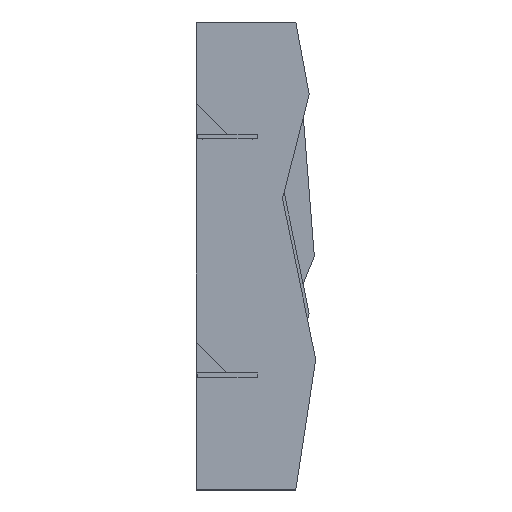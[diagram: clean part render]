
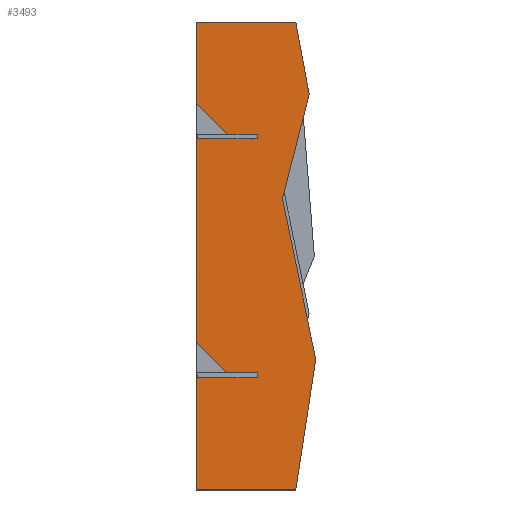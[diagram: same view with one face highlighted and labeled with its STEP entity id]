
A CAD part, left-side view. The second image highlights one B-rep face of the part: STEP entity #3493.
In plain terms, the highlighted planar face has unit normal (-1, 0, 0) as drawn and (0, 0, 1) by its records, which use the part's own axes.
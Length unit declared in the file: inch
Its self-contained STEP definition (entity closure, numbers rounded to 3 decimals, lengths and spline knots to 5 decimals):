
#233=FACE_OUTER_BOUND('',#413,.T.);
#413=EDGE_LOOP('',(#3034,#3035,#3036,#3037,#3038,#3039,#3040,#3041,#3042,
#3043,#3044,#3045,#3046,#3047,#3048,#3049,#3050,#3051,#3052,#3053,#3054));
#848=LINE('',#5520,#1328);
#850=LINE('',#5524,#1330);
#853=LINE('',#5530,#1333);
#855=LINE('',#5533,#1335);
#857=LINE('',#5538,#1337);
#860=LINE('',#5543,#1340);
#862=LINE('',#5547,#1342);
#864=LINE('',#5552,#1344);
#867=LINE('',#5557,#1347);
#868=LINE('',#5559,#1348);
#869=LINE('',#5562,#1349);
#870=LINE('',#5563,#1350);
#871=LINE('',#5565,#1351);
#872=LINE('',#5567,#1352);
#873=LINE('',#5569,#1353);
#874=LINE('',#5571,#1354);
#875=LINE('',#5573,#1355);
#876=LINE('',#5575,#1356);
#877=LINE('',#5577,#1357);
#878=LINE('',#5579,#1358);
#879=LINE('',#5580,#1359);
#1328=VECTOR('',#4519,0.3937);
#1330=VECTOR('',#4523,0.3937);
#1333=VECTOR('',#4528,0.3937);
#1335=VECTOR('',#4532,0.3937);
#1337=VECTOR('',#4536,0.3937);
#1340=VECTOR('',#4541,0.3937);
#1342=VECTOR('',#4545,0.3937);
#1344=VECTOR('',#4549,0.3937);
#1347=VECTOR('',#4554,0.3937);
#1348=VECTOR('',#4557,0.3937);
#1349=VECTOR('',#4560,0.3937);
#1350=VECTOR('',#4561,0.3937);
#1351=VECTOR('',#4562,0.3937);
#1352=VECTOR('',#4563,0.3937);
#1353=VECTOR('',#4564,0.3937);
#1354=VECTOR('',#4565,0.3937);
#1355=VECTOR('',#4566,0.3937);
#1356=VECTOR('',#4567,0.3937);
#1357=VECTOR('',#4568,0.3937);
#1358=VECTOR('',#4569,0.3937);
#1359=VECTOR('',#4570,0.3937);
#1678=VERTEX_POINT('',#5517);
#1679=VERTEX_POINT('',#5519);
#1680=VERTEX_POINT('',#5523);
#1681=VERTEX_POINT('',#5527);
#1682=VERTEX_POINT('',#5529);
#1683=VERTEX_POINT('',#5535);
#1684=VERTEX_POINT('',#5537);
#1685=VERTEX_POINT('',#5541);
#1686=VERTEX_POINT('',#5545);
#1687=VERTEX_POINT('',#5549);
#1688=VERTEX_POINT('',#5551);
#1689=VERTEX_POINT('',#5555);
#1690=VERTEX_POINT('',#5561);
#1691=VERTEX_POINT('',#5564);
#1692=VERTEX_POINT('',#5566);
#1693=VERTEX_POINT('',#5568);
#1694=VERTEX_POINT('',#5570);
#1695=VERTEX_POINT('',#5572);
#1696=VERTEX_POINT('',#5574);
#1697=VERTEX_POINT('',#5576);
#1698=VERTEX_POINT('',#5578);
#2128=EDGE_CURVE('',#1679,#1678,#848,.T.);
#2130=EDGE_CURVE('',#1680,#1679,#850,.T.);
#2133=EDGE_CURVE('',#1682,#1681,#853,.T.);
#2135=EDGE_CURVE('',#1681,#1680,#855,.T.);
#2137=EDGE_CURVE('',#1684,#1683,#857,.T.);
#2140=EDGE_CURVE('',#1683,#1685,#860,.T.);
#2142=EDGE_CURVE('',#1685,#1686,#862,.T.);
#2144=EDGE_CURVE('',#1688,#1687,#864,.T.);
#2147=EDGE_CURVE('',#1687,#1689,#867,.T.);
#2148=EDGE_CURVE('',#1689,#1684,#868,.T.);
#2149=EDGE_CURVE('',#1678,#1690,#869,.T.);
#2150=EDGE_CURVE('',#1690,#1688,#870,.T.);
#2151=EDGE_CURVE('',#1686,#1691,#871,.T.);
#2152=EDGE_CURVE('',#1691,#1692,#872,.T.);
#2153=EDGE_CURVE('',#1692,#1693,#873,.T.);
#2154=EDGE_CURVE('',#1693,#1694,#874,.T.);
#2155=EDGE_CURVE('',#1694,#1695,#875,.T.);
#2156=EDGE_CURVE('',#1695,#1696,#876,.T.);
#2157=EDGE_CURVE('',#1696,#1697,#877,.T.);
#2158=EDGE_CURVE('',#1697,#1698,#878,.T.);
#2159=EDGE_CURVE('',#1698,#1682,#879,.T.);
#3034=ORIENTED_EDGE('',*,*,#2130,.T.);
#3035=ORIENTED_EDGE('',*,*,#2128,.T.);
#3036=ORIENTED_EDGE('',*,*,#2149,.T.);
#3037=ORIENTED_EDGE('',*,*,#2150,.T.);
#3038=ORIENTED_EDGE('',*,*,#2144,.T.);
#3039=ORIENTED_EDGE('',*,*,#2147,.T.);
#3040=ORIENTED_EDGE('',*,*,#2148,.T.);
#3041=ORIENTED_EDGE('',*,*,#2137,.T.);
#3042=ORIENTED_EDGE('',*,*,#2140,.T.);
#3043=ORIENTED_EDGE('',*,*,#2142,.T.);
#3044=ORIENTED_EDGE('',*,*,#2151,.T.);
#3045=ORIENTED_EDGE('',*,*,#2152,.T.);
#3046=ORIENTED_EDGE('',*,*,#2153,.T.);
#3047=ORIENTED_EDGE('',*,*,#2154,.T.);
#3048=ORIENTED_EDGE('',*,*,#2155,.T.);
#3049=ORIENTED_EDGE('',*,*,#2156,.T.);
#3050=ORIENTED_EDGE('',*,*,#2157,.T.);
#3051=ORIENTED_EDGE('',*,*,#2158,.T.);
#3052=ORIENTED_EDGE('',*,*,#2159,.T.);
#3053=ORIENTED_EDGE('',*,*,#2133,.T.);
#3054=ORIENTED_EDGE('',*,*,#2135,.T.);
#3313=PLANE('',#3774);
#3493=ADVANCED_FACE('',(#233),#3313,.T.);
#3774=AXIS2_PLACEMENT_3D('',#5560,#4558,#4559);
#4519=DIRECTION('',(0.983,0.182,0.));
#4523=DIRECTION('',(0.969,-0.248,0.));
#4528=DIRECTION('',(0.989,-0.151,0.));
#4532=DIRECTION('',(0.979,0.203,0.));
#4536=DIRECTION('',(0.,1.,0.));
#4541=DIRECTION('',(1.,0.,0.));
#4545=DIRECTION('',(0.,1.,0.));
#4549=DIRECTION('',(-0.703,-0.711,0.));
#4554=DIRECTION('',(0.,-1.,0.));
#4557=DIRECTION('',(-1.,0.,0.));
#4558=DIRECTION('center_axis',(0.,0.,1.));
#4559=DIRECTION('ref_axis',(1.,0.,0.));
#4560=DIRECTION('',(0.,1.,0.));
#4561=DIRECTION('',(-1.,0.,0.));
#4562=DIRECTION('',(-1.,0.,0.));
#4563=DIRECTION('',(-0.703,-0.711,0.));
#4564=DIRECTION('',(0.,-1.,0.));
#4565=DIRECTION('',(-1.,0.,0.));
#4566=DIRECTION('',(0.,1.,0.));
#4567=DIRECTION('',(1.,0.,0.));
#4568=DIRECTION('',(0.,1.,0.));
#4569=DIRECTION('',(-1.,0.,0.));
#4570=DIRECTION('',(0.,-1.,0.));
#5517=CARTESIAN_POINT('',(47.,0.,0.48));
#5519=CARTESIAN_POINT('',(39.7525,-1.34505,0.48));
#5520=CARTESIAN_POINT('',(39.7525,-1.34505,0.48));
#5523=CARTESIAN_POINT('',(29.26965,1.34318,0.48));
#5524=CARTESIAN_POINT('',(29.26965,1.34318,0.48));
#5527=CARTESIAN_POINT('',(13.12739,-1.99983,0.48));
#5529=CARTESIAN_POINT('',(0.,0.,0.48));
#5530=CARTESIAN_POINT('',(0.,0.,0.48));
#5533=CARTESIAN_POINT('',(26.86655,0.84551,0.48));
#5535=CARTESIAN_POINT('',(35.25,9.375,0.48));
#5537=CARTESIAN_POINT('',(35.25,4.375,0.48));
#5538=CARTESIAN_POINT('',(35.25,7.1875,0.48));
#5541=CARTESIAN_POINT('',(35.495,9.375,0.48));
#5543=CARTESIAN_POINT('',(29.4975,9.375,0.48));
#5545=CARTESIAN_POINT('',(35.495,10.,0.48));
#5547=CARTESIAN_POINT('',(35.495,7.5,0.48));
#5549=CARTESIAN_POINT('',(35.75,6.875,0.48));
#5551=CARTESIAN_POINT('',(38.8409,10.,0.48));
#5552=CARTESIAN_POINT('',(32.25238,3.33879,0.48));
#5555=CARTESIAN_POINT('',(35.75,4.375,0.48));
#5557=CARTESIAN_POINT('',(35.75,4.6875,0.48));
#5559=CARTESIAN_POINT('',(29.375,4.375,0.48));
#5560=CARTESIAN_POINT('Origin',(23.5,5.,0.48));
#5561=CARTESIAN_POINT('',(47.,10.,0.48));
#5562=CARTESIAN_POINT('',(47.,0.,0.48));
#5563=CARTESIAN_POINT('',(47.,10.,0.48));
#5564=CARTESIAN_POINT('',(14.8409,10.,0.48));
#5565=CARTESIAN_POINT('',(47.,10.,0.48));
#5566=CARTESIAN_POINT('',(11.75,6.875,0.48));
#5567=CARTESIAN_POINT('',(14.18655,9.33843,0.48));
#5568=CARTESIAN_POINT('',(11.75,4.375,0.48));
#5569=CARTESIAN_POINT('',(11.75,4.6875,0.48));
#5570=CARTESIAN_POINT('',(11.25,4.375,0.48));
#5571=CARTESIAN_POINT('',(17.375,4.375,0.48));
#5572=CARTESIAN_POINT('',(11.25,9.375,0.48));
#5573=CARTESIAN_POINT('',(11.25,7.1875,0.48));
#5574=CARTESIAN_POINT('',(11.495,9.375,0.48));
#5575=CARTESIAN_POINT('',(17.4975,9.375,0.48));
#5576=CARTESIAN_POINT('',(11.495,10.,0.48));
#5577=CARTESIAN_POINT('',(11.495,7.5,0.48));
#5578=CARTESIAN_POINT('',(0.,10.,0.48));
#5579=CARTESIAN_POINT('',(47.,10.,0.48));
#5580=CARTESIAN_POINT('',(0.,10.,0.48));
